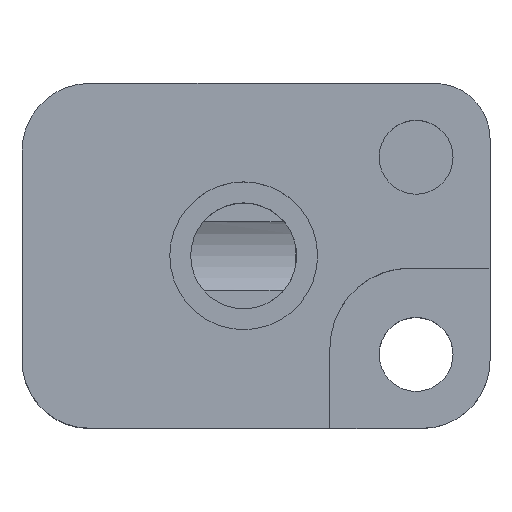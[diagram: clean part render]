
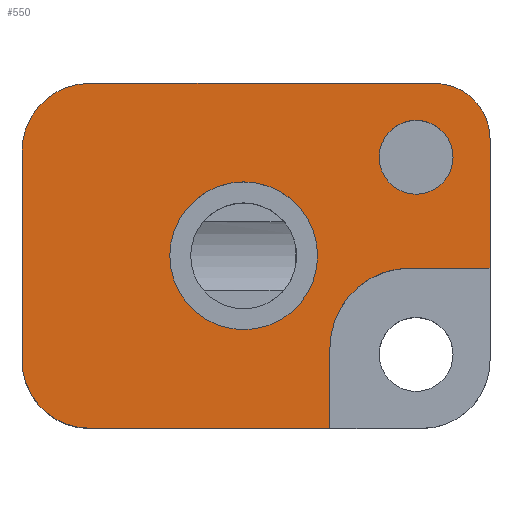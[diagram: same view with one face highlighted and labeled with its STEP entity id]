
A CAD part, top view. The second image highlights one B-rep face of the part: STEP entity #550.
In plain terms, the highlighted planar face has unit normal (0, 0, 1).
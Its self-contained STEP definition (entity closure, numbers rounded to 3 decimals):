
#25=FACE_BOUND('',#113,.T.);
#26=FACE_BOUND('',#114,.T.);
#44=PLANE('',#620);
#75=FACE_OUTER_BOUND('',#112,.T.);
#112=EDGE_LOOP('',(#495,#496,#497,#498,#499,#500,#501,#502,#503,#504));
#113=EDGE_LOOP('',(#505));
#114=EDGE_LOOP('',(#506));
#119=LINE('',#796,#165);
#131=LINE('',#830,#177);
#134=LINE('',#839,#180);
#143=LINE('',#860,#189);
#145=LINE('',#869,#191);
#160=LINE('',#1014,#206);
#165=VECTOR('',#635,10.);
#177=VECTOR('',#663,10.);
#180=VECTOR('',#672,10.);
#189=VECTOR('',#689,10.);
#191=VECTOR('',#703,10.);
#206=VECTOR('',#778,10.);
#208=CIRCLE('',#567,2.75);
#213=CIRCLE('',#575,2.75);
#214=CIRCLE('',#578,2.25);
#216=CIRCLE('',#582,3.25);
#220=CIRCLE('',#591,1.5);
#224=CIRCLE('',#602,3.);
#234=VERTEX_POINT('',#786);
#235=VERTEX_POINT('',#788);
#237=VERTEX_POINT('',#794);
#246=VERTEX_POINT('',#816);
#251=VERTEX_POINT('',#828);
#252=VERTEX_POINT('',#832);
#253=VERTEX_POINT('',#834);
#254=VERTEX_POINT('',#838);
#261=VERTEX_POINT('',#853);
#262=VERTEX_POINT('',#855);
#264=VERTEX_POINT('',#871);
#269=VERTEX_POINT('',#893);
#284=EDGE_CURVE('',#234,#235,#208,.T.);
#288=EDGE_CURVE('',#237,#234,#119,.T.);
#299=EDGE_CURVE('',#246,#237,#213,.T.);
#305=EDGE_CURVE('',#251,#246,#131,.T.);
#307=EDGE_CURVE('',#252,#253,#214,.T.);
#309=EDGE_CURVE('',#253,#254,#134,.T.);
#317=EDGE_CURVE('',#261,#262,#216,.T.);
#320=EDGE_CURVE('',#261,#254,#143,.T.);
#325=EDGE_CURVE('',#251,#262,#145,.T.);
#326=EDGE_CURVE('',#264,#264,#220,.T.);
#336=EDGE_CURVE('',#269,#269,#224,.T.);
#356=EDGE_CURVE('',#235,#252,#160,.T.);
#495=ORIENTED_EDGE('',*,*,#284,.F.);
#496=ORIENTED_EDGE('',*,*,#288,.F.);
#497=ORIENTED_EDGE('',*,*,#299,.F.);
#498=ORIENTED_EDGE('',*,*,#305,.F.);
#499=ORIENTED_EDGE('',*,*,#325,.T.);
#500=ORIENTED_EDGE('',*,*,#317,.F.);
#501=ORIENTED_EDGE('',*,*,#320,.T.);
#502=ORIENTED_EDGE('',*,*,#309,.F.);
#503=ORIENTED_EDGE('',*,*,#307,.F.);
#504=ORIENTED_EDGE('',*,*,#356,.F.);
#505=ORIENTED_EDGE('',*,*,#326,.T.);
#506=ORIENTED_EDGE('',*,*,#336,.T.);
#550=ADVANCED_FACE('',(#75,#25,#26),#44,.F.);
#567=AXIS2_PLACEMENT_3D('',#789,#628,#629);
#575=AXIS2_PLACEMENT_3D('',#818,#654,#655);
#578=AXIS2_PLACEMENT_3D('',#835,#667,#668);
#582=AXIS2_PLACEMENT_3D('',#856,#683,#684);
#591=AXIS2_PLACEMENT_3D('',#872,#706,#707);
#602=AXIS2_PLACEMENT_3D('',#894,#734,#735);
#620=AXIS2_PLACEMENT_3D('',#1015,#779,#780);
#628=DIRECTION('center_axis',(0.,0.,-1.));
#629=DIRECTION('ref_axis',(-0.707,0.707,0.));
#635=DIRECTION('',(0.,1.,0.));
#654=DIRECTION('center_axis',(0.,0.,-1.));
#655=DIRECTION('ref_axis',(-0.707,-0.707,0.));
#663=DIRECTION('',(-1.,0.,0.));
#667=DIRECTION('center_axis',(0.,0.,-1.));
#668=DIRECTION('ref_axis',(0.707,0.707,0.));
#672=DIRECTION('',(0.,-1.,0.));
#683=DIRECTION('center_axis',(0.,0.,1.));
#684=DIRECTION('ref_axis',(-0.707,0.707,0.));
#689=DIRECTION('',(1.,0.,0.));
#703=DIRECTION('',(0.,1.,0.));
#706=DIRECTION('center_axis',(0.,0.,-1.));
#707=DIRECTION('ref_axis',(1.,0.,0.));
#734=DIRECTION('center_axis',(0.,0.,-1.));
#735=DIRECTION('ref_axis',(1.,0.,0.));
#778=DIRECTION('',(1.,0.,0.));
#779=DIRECTION('center_axis',(0.,0.,-1.));
#780=DIRECTION('ref_axis',(-1.,0.,0.));
#786=CARTESIAN_POINT('',(-9.,4.25,-2.));
#788=CARTESIAN_POINT('',(-6.25,7.,-2.));
#789=CARTESIAN_POINT('Origin',(-6.25,4.25,-2.));
#794=CARTESIAN_POINT('',(-9.,-4.25,-2.));
#796=CARTESIAN_POINT('',(-9.,-7.,-2.));
#816=CARTESIAN_POINT('',(-6.25,-7.,-2.));
#818=CARTESIAN_POINT('Origin',(-6.25,-4.25,-2.));
#828=CARTESIAN_POINT('',(3.5,-7.,-2.));
#830=CARTESIAN_POINT('',(10.,-7.,-2.));
#832=CARTESIAN_POINT('',(7.75,7.,-2.));
#834=CARTESIAN_POINT('',(10.,4.75,-2.));
#835=CARTESIAN_POINT('Origin',(7.75,4.75,-2.));
#838=CARTESIAN_POINT('',(10.,-0.5,-2.));
#839=CARTESIAN_POINT('',(10.,7.,-2.));
#853=CARTESIAN_POINT('',(6.75,-0.5,-2.));
#855=CARTESIAN_POINT('',(3.5,-3.75,-2.));
#856=CARTESIAN_POINT('Origin',(6.75,-3.75,-2.));
#860=CARTESIAN_POINT('',(2.,-0.5,-2.));
#869=CARTESIAN_POINT('',(3.5,-3.5,-2.));
#871=CARTESIAN_POINT('',(5.5,4.,-2.));
#872=CARTESIAN_POINT('Origin',(7.,4.,-2.));
#893=CARTESIAN_POINT('',(-3.,0.,-2.));
#894=CARTESIAN_POINT('Origin',(0.,0.,-2.));
#1014=CARTESIAN_POINT('',(-9.,7.,-2.));
#1015=CARTESIAN_POINT('Origin',(0.5,0.,-2.));
